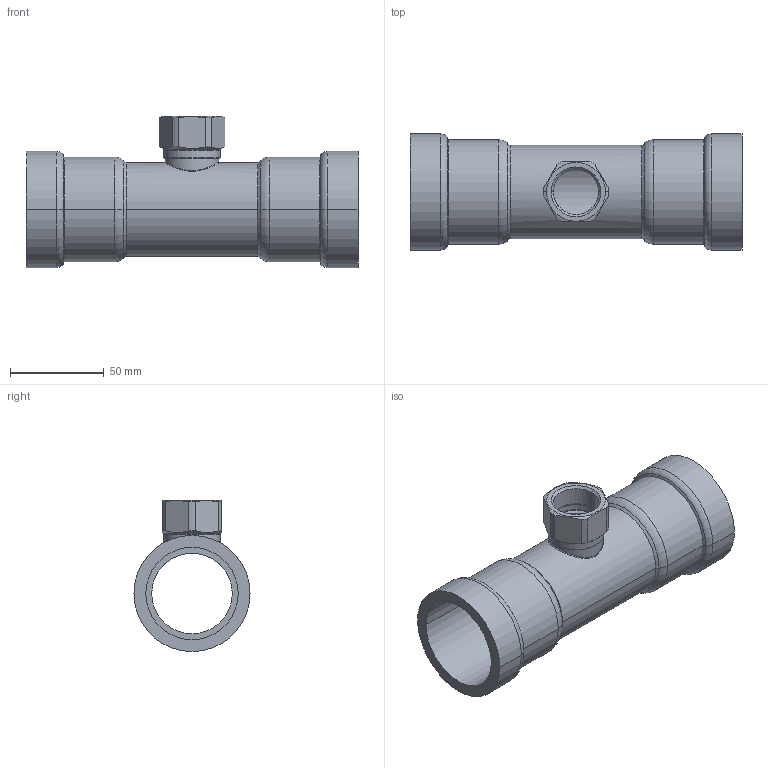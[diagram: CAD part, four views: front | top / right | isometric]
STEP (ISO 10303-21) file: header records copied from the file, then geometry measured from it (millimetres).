
FILE_DESCRIPTION(('Creo Elements/Direct Modeling STEP Export'),'2;1');
FILE_NAME('C9418_1-1-2_Rp3-4_1-1-2.stp','2020-07-17T 9:20:37',(''),(''),'PTC Creo Elements/Direct Modeling STEP processor for AP214 (Solid Model)','PTC Creo Elements/Direct Modeling 19.0C 15-Aug-2015 (C) Parametric Technology GmbH','');
FILE_SCHEMA(('AUTOMOTIVE_DESIGN { 1 0 10303 214 1 1 1 1 }'));
Length unit declared in the file: millimetre
Products named in the file (2): C9418_1-1-2_Rp3-4_1-1-2
Assembly tree (1 placements, depth 2):
  C9418_1-1-2_Rp3-4_1-1-2
    C9418_1-1-2_Rp3-4_1-1-2
Bounding box: 177.18 x 62 x 80.69 mm (x, y, z)
Volume: 122941.3 mm3; surface area: 64693 mm2
Topology: 1 solids, 1 shells, 82 faces, 188 edges, 112 vertices
Faces by surface type: cylinder 32, cone 20, torus 14, plane 12, bspline 4
Entity records: 6716 total; most frequent: CARTESIAN_POINT 4945, ORIENTED_EDGE 376, DIRECTION 344, EDGE_CURVE 188, AXIS2_PLACEMENT_3D 143, VERTEX_POINT 112, EDGE_LOOP 90, FACE_OUTER_BOUND 82
